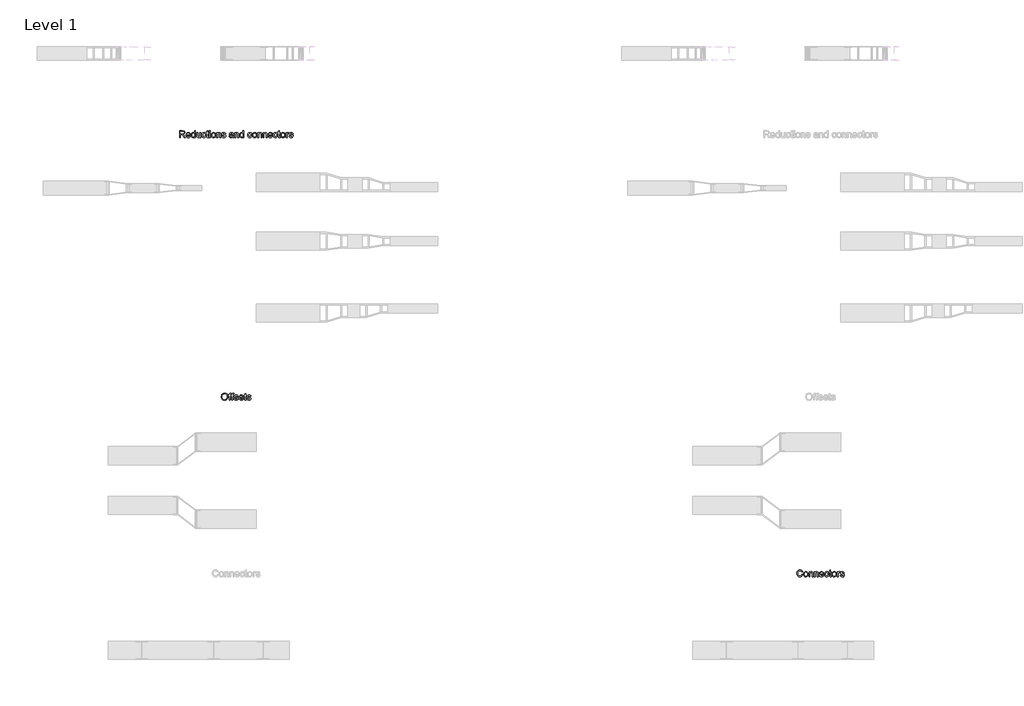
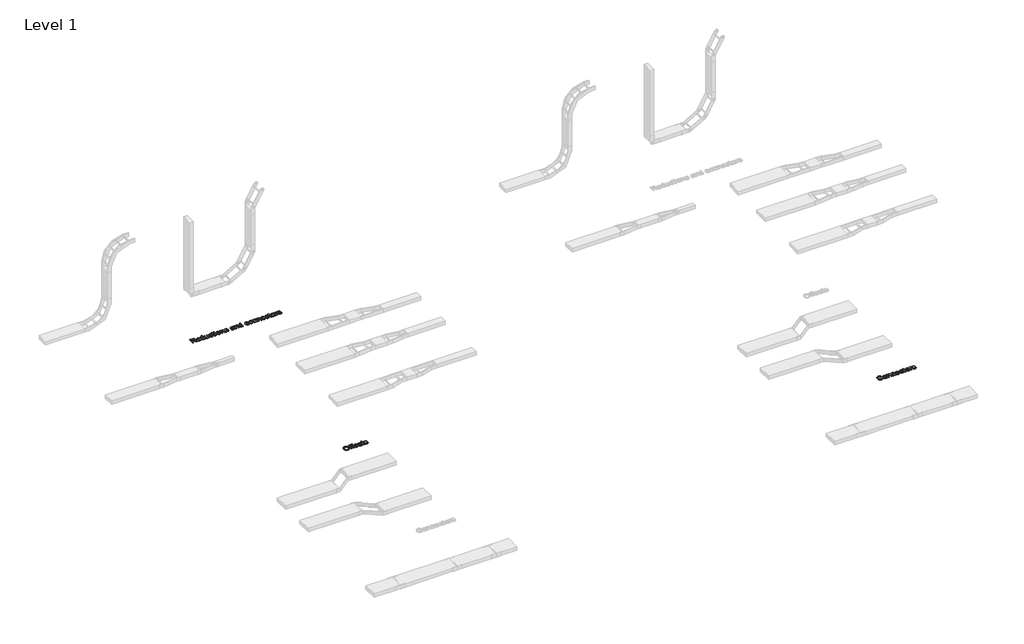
# One storey, part 70 of 106: 3 proxies.
"""IFC4 building model written with IfcOpenShell, lengths in millimetres."""

import ifcopenshell
import ifcopenshell.guid

model = None  # the IFC model being written
_history = None  # IfcOwnerHistory: only IFC2X3 demands one
_inside = {}  # id of a spatial element -> (the spatial element, [elements in it])
_under = {}  # id of a project, library or spatial element -> (it, [spatial elements below it])
_declared = {}  # id of a project -> (the project, [libraries it declares])
_typed = {}  # id of a type object -> (the type object, [elements of that type])
_made_of = {}  # id of a material, layer set ... -> (it, [elements and type objects made of it])


def new_model(schema):
    """Start an empty IFC model of exactly this schema.

    Asked for "IFC4X3", IfcOpenShell would pick the latest addendum, in which some entities
    have other attributes; the version numbers below select the first issue.
    IFC2X3 requires an IfcOwnerHistory on every rooted entity: one is made here for all.
    """
    global model, _history
    if schema == "IFC4X3":
        model = ifcopenshell.file(schema_version=(4, 3, 0, 0))
    else:
        model = ifcopenshell.file(schema=schema)
    _inside.clear()
    _under.clear()
    _declared.clear()
    _typed.clear()
    _made_of.clear()
    _history = None
    if model.schema == "IFC2X3":
        org = make("IfcOrganization", Name="unknown")
        user = make(
            "IfcPersonAndOrganization",
            ThePerson=make("IfcPerson", FamilyName="unknown"),
            TheOrganization=org,
        )
        app = make(
            "IfcApplication",
            ApplicationDeveloper=org,
            Version="unknown",
            ApplicationFullName="unknown",
            ApplicationIdentifier="unknown",
        )
        _history = make(
            "IfcOwnerHistory",
            OwningUser=user,
            OwningApplication=app,
            ChangeAction="ADDED",
            CreationDate=0,
        )
    return model


def make(cls, **values):
    """One entity of the class cls with the attributes given. An attribute that is None is left unset."""
    return model.create_entity(
        cls, **{name: value for name, value in values.items() if value is not None}
    )


def rooted(cls, **values):
    """An entity with a GlobalId (a new one), such as an element, a storey or a relation."""
    return make(cls, GlobalId=ifcopenshell.guid.new(), OwnerHistory=_history, **values)


def si_unit(unit_type, name, prefix=None):
    """IfcSIUnit, for example si_unit("LENGTHUNIT", "METRE", prefix="MILLI")."""
    return make("IfcSIUnit", UnitType=unit_type, Prefix=prefix, Name=name)


def assignment(units):
    """IfcUnitAssignment: the units of a project."""
    return None if units is None else make("IfcUnitAssignment", Units=units)


def point(xyz):
    """IfcCartesianPoint."""
    return None if xyz is None else make("IfcCartesianPoint", Coordinates=xyz)


def direction(xyz):
    """IfcDirection."""
    return None if xyz is None else make("IfcDirection", DirectionRatios=xyz)


def frame(location, z_axis=None, x_axis=None):
    """IfcAxis2Placement3D, a coordinate frame: its origin and axes. An axis left out is left unset."""
    return make(
        "IfcAxis2Placement3D",
        Location=point(location),
        Axis=direction(z_axis),
        RefDirection=direction(x_axis),
    )


def origin():
    """The frame at (0, 0, 0) with its axes left unset."""
    return frame((0.0, 0.0, 0.0))


def origin_with_axes():
    """The frame at (0, 0, 0) with the z axis (0, 0, 1) and the x axis (1, 0, 0) written out."""
    return frame((0.0, 0.0, 0.0), z_axis=(0.0, 0.0, 1.0), x_axis=(1.0, 0.0, 0.0))


def place(relative_to, where):
    """IfcLocalPlacement: puts the frame where relative to a parent placement (None: the world)."""
    return make(
        "IfcLocalPlacement", PlacementRelTo=relative_to, RelativePlacement=where
    )


def context(
    kind, dimensions, precision=None, world=None, true_north=None, identifier=None
):
    """IfcGeometricRepresentationContext, for example the 3D "Model" context."""
    return make(
        "IfcGeometricRepresentationContext",
        ContextIdentifier=identifier,
        ContextType=kind,
        CoordinateSpaceDimension=dimensions,
        Precision=precision,
        WorldCoordinateSystem=world,
        TrueNorth=true_north,
    )


def project(units=None, contexts=None):
    """IfcProject with its units and contexts."""
    return rooted(
        "IfcProject",
        Name="project",
        RepresentationContexts=contexts,
        UnitsInContext=assignment(units),
    )


def spatial(cls, under=None, at=None, **own):
    """A site, building, storey or space (cls), placed at a placement, below another one or the project."""
    s = rooted(cls, ObjectPlacement=at, **own)
    if under is not None:
        _under.setdefault(under.id(), (under, []))[1].append(s)
    return s


def polyline(points):
    """IfcPolyline through the points."""
    return make("IfcPolyline", Points=[point(p) for p in points])


def outline(outer, holes=None, kind="AREA"):
    """IfcArbitraryClosedProfileDef: a profile drawn as a closed curve; with holes, ...WithVoids."""
    if holes is None:
        return make("IfcArbitraryClosedProfileDef", ProfileType=kind, OuterCurve=outer)
    return make(
        "IfcArbitraryProfileDefWithVoids",
        ProfileType=kind,
        OuterCurve=outer,
        InnerCurves=holes,
    )


def extrude(swept, where, along, depth):
    """IfcExtrudedAreaSolid: the profile swept, set in the frame where, extruded along a direction by depth."""
    return make(
        "IfcExtrudedAreaSolid",
        SweptArea=swept,
        Position=where,
        ExtrudedDirection=direction(along),
        Depth=depth,
    )


def shape(context_of_items, identifier, shape_type, items):
    """IfcShapeRepresentation: the items that make up one representation, for example the "Body"."""
    return make(
        "IfcShapeRepresentation",
        ContextOfItems=context_of_items,
        RepresentationIdentifier=identifier,
        RepresentationType=shape_type,
        Items=items,
    )


def made_of(thing, what):
    """Note that an element or type object is made of a material, layer set ...; save() writes the relation."""
    if what is not None:
        _made_of.setdefault(what.id(), (what, []))[1].append(thing)
    return thing


def element(
    cls,
    number,
    at=None,
    inside=None,
    cuts=None,
    type_object=None,
    material=None,
    context=None,
    identifier="Body",
    shape_type=None,
    held_by="IfcProductDefinitionShape",
    body=None,
    shapes=None,
    **own,
):
    """One element of the class cls, such as IfcWall. Its Tag is "e" and its number.

    at: its placement. inside: the storey or other place that contains it. cuts: it is an
    opening in that element (IfcRelVoidsElement). A single representation is given by context,
    identifier, shape_type and body (its items); several are given by shapes. held_by: the class
    of the entity that holds the representations. save() writes the other relations.
    """
    e = rooted(cls, Tag="e%d" % number, ObjectPlacement=at, **own)
    if body is not None:
        shapes = [shape(context, identifier, shape_type, body)]
    if shapes is not None:
        e.Representation = make(held_by, Representations=shapes)
    if inside is not None:
        _inside.setdefault(inside.id(), (inside, []))[1].append(e)
    if cuts is not None:
        rooted(
            "IfcRelVoidsElement", RelatingBuildingElement=cuts, RelatedOpeningElement=e
        )
    if type_object is not None:
        _typed.setdefault(type_object.id(), (type_object, []))[1].append(e)
    return made_of(e, material)


def aggregate(whole, parts):
    """IfcRelAggregates: a whole, such as a stair, and the parts it consists of."""
    return rooted("IfcRelAggregates", RelatingObject=whole, RelatedObjects=parts)


def save(model, path):
    """Write the relations noted so far, then the file.

    IfcRelAggregates (storeys below a building ...), IfcRelContainedInSpatialStructure (elements
    in a storey), IfcRelDefinesByType, IfcRelAssociatesMaterial and IfcRelDeclares: one each for
    every whole, place, type object, material and project.
    """
    for whole, parts in _under.values():
        aggregate(whole, parts)
    for where, things in _inside.values():
        rooted(
            "IfcRelContainedInSpatialStructure",
            RelatedElements=things,
            RelatingStructure=where,
        )
    for kind, things in _typed.values():
        rooted("IfcRelDefinesByType", RelatedObjects=things, RelatingType=kind)
    for what, things in _made_of.values():
        rooted("IfcRelAssociatesMaterial", RelatedObjects=things, RelatingMaterial=what)
    for by, libraries in _declared.values():
        rooted("IfcRelDeclares", RelatingContext=by, RelatedDefinitions=libraries)
    model.write(path)


model = new_model("IFC4")

# Units and contexts
model_context = context("Model", 3, world=origin())
ifc_project = project(units=[si_unit("LENGTHUNIT", "METRE", prefix="MILLI")], contexts=[model_context])

# Site, building, storey
site = spatial("IfcSite", under=ifc_project)
building = spatial("IfcBuilding", under=site)
storey = spatial("IfcBuildingStorey", under=building, Name="Level 1", Elevation=0.0)

# Proxies
placement = place(None, origin())
element("IfcBuildingElementProxy", 1, Name="150mm Arial 2", ObjectType="150mm Arial 2", at=placement, inside=storey, context=model_context, shape_type="SweptSolid", body=[
    extrude(outline(polyline([(79068.5420892, 54347.8476348), (79068.5420892, 54498.5321), (79133.4732613, 54498.5321), (79163.6211908, 54494.467004), (79172.9010141, 54488.8384094), (79180.1023042, 54480.0828179), (79184.7238218, 54469.2257006), (79186.2643276, 54457.2925283), (79183.7121463, 54442.4484898), (79176.0556023, 54430.1428371), (79163.0647693, 54421.1205312), (79144.5097212, 54416.1265331), (79155.2150872, 54408.0699174), (79170.48219, 54388.6825362), (79195.6085303, 54347.8476348), (79173.7195516, 54347.8476348), (79154.1114412, 54379.0808162), (79139.9479844, 54399.7557843), (79129.9967765, 54409.5230513), (79121.0388499, 54413.1099007), (79110.1127546, 54413.7720883), (79087.3776473, 54413.7720883), (79087.3776473, 54347.8476348), (79068.5420892, 54347.8476348)]), holes=[polyline([(79087.3776473, 54432.6076465), (79129.536924, 54432.6076465), (79151.0396266, 54435.2747909), (79163.2533088, 54443.8096532), (79167.4287695, 54456.5935526), (79165.4376082, 54465.7814054), (79159.4641243, 54473.1850305), (79149.186421, 54478.068664), (79134.2826017, 54479.6965419), (79087.3776473, 54479.6965419), (79087.3776473, 54432.6076465)])]), origin_with_axes(), (0.0, 0.0, 1.0), 15.0),
    extrude(outline(polyline([(79294.3480578, 54380.8098615), (79312.815734, 54378.4554168), (79306.1616684, 54364.5402803), (79295.5436743, 54354.1384169), (79281.200875, 54347.6544967), (79263.3723938, 54345.49319), (79241.2718829, 54349.2225937), (79224.2665377, 54360.4108049), (79213.4232159, 54378.3312566), (79209.8087753, 54402.2573819), (79213.4600041, 54426.988249), (79224.4136905, 54445.4835163), (79241.1891095, 54457.0166168), (79262.305536, 54460.8609837), (79282.7643735, 54457.0258139), (79299.1121296, 54445.5203045), (79309.8312913, 54427.0618254), (79313.4043452, 54402.3677465), (79313.2939806, 54397.2909749), (79228.6443335, 54397.2909749), (79231.9046876, 54383.1918975), (79239.4784582, 54372.8268223), (79250.409152, 54366.4532667), (79263.7402758, 54364.3287482), (79282.207952, 54368.2650855), (79294.3480578, 54380.8098615)]), holes=[polyline([(79228.6443335, 54416.1265331), (79294.568787, 54416.1265331), (79292.0212042, 54426.0777411), (79287.0272061, 54433.1962577), (79276.0459285, 54439.8181336), (79262.2319596, 54442.0254255), (79249.5354323, 54440.2641905), (79239.0369998, 54434.9804853), (79231.7391407, 54426.7445272), (79228.6443335, 54416.1265331)])]), origin_with_axes(), (0.0, 0.0, 1.0), 15.0),
    extrude(outline(polyline([(79400.5188016, 54347.8476348), (79400.5188016, 54365.6163351), (79388.056799, 54350.5239763), (79370.8307246, 54345.49319), (79358.6538306, 54347.3142059), (79347.5070061, 54352.7772535), (79338.0708329, 54361.5006553), (79331.0258927, 54373.1027337), (79326.6388999, 54387.1144392), (79325.176569, 54403.0667223), (79330.5660402, 54433.0491049), (79337.2982807, 54444.9408904), (79346.7160598, 54453.6872848), (79358.1066061, 54459.067559), (79370.7571482, 54460.8609837), (79388.1211784, 54455.7290299), (79400.5188016, 54442.3933075), (79400.5188016, 54498.5321), (79419.3543598, 54498.5321), (79419.3543598, 54347.8476348), (79400.5188016, 54347.8476348)]), holes=[polyline([(79344.0121271, 54403.1402987), (79346.1366457, 54386.1027638), (79352.5102012, 54373.9856505), (79361.7716305, 54366.7429738), (79372.55977, 54364.3287482), (79383.343311, 54366.6326092), (79392.3702154, 54373.5441921), (79398.4816551, 54385.1922558), (79400.5188016, 54401.7055589), (79398.4448669, 54419.7593678), (79392.2230626, 54432.2765527), (79382.9662319, 54439.5882073), (79371.7872178, 54442.0254255), (79360.8887137, 54439.6847764), (79351.9583782, 54432.6628288), (79345.9986899, 54420.6008979), (79344.0121271, 54403.1402987)])]), origin_with_axes(), (0.0, 0.0, 1.0), 15.0),
    extrude(outline(polyline([(79518.2410401, 54347.8476348), (79518.2410401, 54366.8671339), (79503.4889721, 54350.836676), (79484.2487437, 54345.49319), (79466.5352256, 54349.2455864), (79454.3215434, 54358.6633654), (79448.711343, 54372.5325167), (79447.607697, 54390.0436996), (79447.607697, 54458.5065389), (79466.4432551, 54458.5065389), (79466.4432551, 54398.9096557), (79467.5836893, 54379.7062156), (79475.0332997, 54368.4306324), (79489.0679978, 54364.3287482), (79504.7949531, 54368.5226029), (79515.1876195, 54379.9453389), (79518.2410401, 54400.9330067), (79518.2410401, 54458.5065389), (79537.0765982, 54458.5065389), (79537.0765982, 54347.8476348), (79518.2410401, 54347.8476348)])), origin_with_axes(), (0.0, 0.0, 1.0), 15.0),
    extrude(outline(polyline([(79633.6088338, 54387.8731959), (79652.4443919, 54385.5187511), (79647.1928764, 54368.7663247), (79637.3244419, 54356.1065856), (79623.7679904, 54348.1465389), (79607.4524239, 54345.49319), (79587.4166507, 54349.1950026), (79571.7494763, 54360.3004403), (79561.6373199, 54378.3220596), (79558.2666011, 54402.7724167), (79559.7059394, 54419.5340401), (79564.0239544, 54434.0607803), (79571.2896238, 54445.7916175), (79581.5719255, 54454.1655314), (79593.8729797, 54459.1871206), (79607.1949065, 54460.8609837), (79623.1104013, 54458.5617212), (79635.8345198, 54451.6639338), (79644.9625918, 54440.5355035), (79650.0899471, 54425.5443122), (79631.254389, 54423.1898674), (79622.5171916, 54437.2981419), (79607.3420593, 54442.0254255), (79595.1697638, 54439.6985719), (79585.5082629, 54432.7180111), (79579.2036852, 54420.7066639), (79577.1021593, 54403.2874515), (79579.1576999, 54385.6337142), (79585.3243219, 54373.5809803), (79594.8110788, 54366.6418062), (79606.8270245, 54364.3287482), (79616.5804959, 54365.772685), (79624.5773308, 54370.1044955), (79630.3944648, 54377.4345442), (79633.6088338, 54387.8731959)])), origin_with_axes(), (0.0, 0.0, 1.0), 15.0),
    extrude(outline(polyline([(79708.9510664, 54363.556196), (79711.3055111, 54347.2958118), (79697.2156307, 54345.49319), (79681.4334931, 54348.620187), (79673.5608184, 54356.8239555), (79671.2799501, 54378.1978994), (79671.2799501, 54439.6709808), (79657.1532814, 54439.6709808), (79657.1532814, 54458.5065389), (79671.2799501, 54458.5065389), (79671.2799501, 54485.3987128), (79690.1155082, 54496.4719608), (79690.1155082, 54458.5065389), (79708.9510664, 54458.5065389), (79708.9510664, 54439.6709808), (79690.1155082, 54439.6709808), (79690.1155082, 54378.7497224), (79691.1087896, 54369.0376377), (79694.3277571, 54365.597941), (79700.7472979, 54364.3287482), (79708.9510664, 54363.556196)])), origin_with_axes(), (0.0, 0.0, 1.0), 15.0),
    extrude(outline(polyline([(79727.7866245, 54479.6965419), (79727.7866245, 54498.5321), (79746.6221827, 54498.5321), (79746.6221827, 54479.6965419), (79727.7866245, 54479.6965419)])), origin_with_axes(), (0.0, 0.0, 1.0), 15.0),
    extrude(outline(polyline([(79727.7866245, 54347.8476348), (79727.7866245, 54458.5065389), (79746.6221827, 54458.5065389), (79746.6221827, 54347.8476348), (79727.7866245, 54347.8476348)])), origin_with_axes(), (0.0, 0.0, 1.0), 15.0),
    extrude(outline(polyline([(79770.1666304, 54403.1770869), (79774.2409235, 54429.8577286), (79786.4638027, 54448.6105133), (79801.5653587, 54457.7983661), (79819.6467587, 54460.8609837), (79839.4342115, 54457.13158), (79855.2393417, 54445.9433688), (79865.5998184, 54428.179267), (79869.0533107, 54404.7221912), (79867.5266004, 54385.693495), (79862.9464695, 54371.2081415), (79855.4462754, 54360.3602211), (79845.1593751, 54352.2438246), (79832.9410943, 54347.1808487), (79819.6467587, 54345.49319), (79799.6201826, 54349.2087982), (79783.8334465, 54360.3556226), (79773.5833344, 54378.492205), (79770.1666304, 54403.1770869)]), holes=[polyline([(79789.0021885, 54403.2138751), (79791.1818893, 54386.1671431), (79797.7209918, 54374.0224387), (79807.5618352, 54366.7521708), (79819.6467587, 54364.3287482), (79831.6765, 54366.7659664), (79841.4989492, 54374.077621), (79848.0380517, 54386.3832738), (79850.2177525, 54403.8024862), (79848.0242561, 54420.3525775), (79841.4437669, 54432.331735), (79831.6075221, 54439.6020029), (79819.6467587, 54442.0254255), (79807.5618352, 54439.6112), (79797.7209918, 54432.3685232), (79791.1818893, 54420.25141), (79789.0021885, 54403.2138751)])]), origin_with_axes(), (0.0, 0.0, 1.0), 15.0),
    extrude(outline(polyline([(79890.2433136, 54347.8476348), (79890.2433136, 54458.5065389), (79909.0788717, 54458.5065389), (79909.0788717, 54443.0554951), (79923.4814519, 54456.4096116), (79943.1447445, 54460.8609837), (79960.931839, 54457.2741342), (79973.0719448, 54447.8563552), (79978.7189334, 54434.0055981), (79979.7122148, 54415.7954393), (79979.7122148, 54347.8476348), (79960.8766567, 54347.8476348), (79960.8766567, 54413.2570535), (79958.7061529, 54429.9221079), (79951.0358133, 54438.7328817), (79938.1047612, 54442.0254255), (79927.0728998, 54440.1768185), (79917.6689163, 54434.6309974), (79911.2263829, 54423.9164343), (79909.0788717, 54406.5616012), (79909.0788717, 54347.8476348), (79890.2433136, 54347.8476348)])), origin_with_axes(), (0.0, 0.0, 1.0), 15.0),
    extrude(outline(polyline([(79998.547773, 54380.8098615), (80017.3833311, 54383.1643063), (80020.3539782, 54375.1076906), (80026.1021344, 54369.1847905), (80046.0781267, 54364.3287482), (80065.2815669, 54368.7801203), (80071.5355608, 54379.227969), (80069.9628653, 54384.028829), (80065.2447787, 54387.6892549), (80045.8573975, 54393.060332), (80017.4936957, 54402.275776), (80005.1144666, 54413.0363243), (80000.9022177, 54428.2298507), (80004.2867321, 54442.2645488), (80013.5205702, 54452.988309), (80025.4951291, 54458.5617212), (80041.700331, 54460.8609837), (80064.6193793, 54457.1637696), (80079.1875063, 54447.1573794), (80085.6622294, 54430.2532017), (80066.8266713, 54427.8987569), (80059.7449429, 54438.2914233), (80043.171859, 54442.0254255), (80025.1456412, 54438.4569702), (80019.7377759, 54430.1428371), (80021.9818561, 54424.6613954), (80029.0084022, 54420.5043288), (80045.2319982, 54416.4944151), (80072.8783301, 54407.628459), (80085.7174117, 54397.5852805), (80090.371119, 54381.2145317), (80084.9080713, 54363.188314), (80069.1443278, 54350.1101091), (80045.8206093, 54345.49319), (80026.8287013, 54347.7188761), (80012.9687472, 54354.3959343), (80003.716515, 54365.4507882), (79998.547773, 54380.8098615)])), origin_with_axes(), (0.0, 0.0, 1.0), 15.0),
    extrude(outline(polyline([(80241.0555842, 54361.9743034), (80222.7902431, 54349.2087982), (80202.6119157, 54345.49319), (80186.8711648, 54347.7280731), (80175.2598894, 54354.4327225), (80168.099986, 54364.6138567), (80165.7133516, 54377.2781944), (80169.3185951, 54392.1774152), (80178.7915565, 54402.9931459), (80191.980126, 54409.1735634), (80208.2772984, 54412.0062547), (80240.9452196, 54418.4809779), (80241.0555842, 54422.6748326), (80239.7588002, 54431.0809362), (80235.8684481, 54436.580772), (80227.1680389, 54440.6642622), (80215.0463271, 54442.0254255), (80195.9900398, 54438.4017879), (80186.9033545, 54425.5443122), (80168.0677963, 54427.8987569), (80176.2163825, 54446.2928567), (80192.6239195, 54457.0717991), (80217.4743483, 54460.8609837), (80240.3014261, 54457.5132575), (80253.19569, 54449.107154), (80258.9714374, 54436.3232546), (80259.8911423, 54419.8421412), (80259.8911423, 54396.4080581), (80260.8476355, 54363.6849547), (80264.6000319, 54347.8476348), (80245.7644737, 54347.8476348), (80241.0555842, 54361.9743034)]), holes=[polyline([(80241.0555842, 54399.6454197), (80210.6685314, 54393.8696724), (80194.4633295, 54390.8162518), (80187.1240837, 54385.8498449), (80184.5489097, 54378.6025696), (80190.1591102, 54368.4122383), (80206.6218294, 54364.3287482), (80225.6781168, 54368.8353026), (80237.9653754, 54379.7430038), (80240.9452196, 54394.3111308), (80241.0555842, 54399.6454197)])]), origin_with_axes(), (0.0, 0.0, 1.0), 15.0),
    extrude(outline(polyline([(80285.7900348, 54347.8476348), (80285.7900348, 54458.5065389), (80304.625593, 54458.5065389), (80304.625593, 54443.0554951), (80319.0281731, 54456.4096116), (80338.6914657, 54460.8609837), (80356.4785602, 54457.2741342), (80368.618666, 54447.8563552), (80374.2656546, 54434.0055981), (80375.258936, 54415.7954393), (80375.258936, 54347.8476348), (80356.4233779, 54347.8476348), (80356.4233779, 54413.2570535), (80354.2528741, 54429.9221079), (80346.5825345, 54438.7328817), (80333.6514824, 54442.0254255), (80322.619621, 54440.1768185), (80313.2156375, 54434.6309974), (80306.7731041, 54423.9164343), (80304.625593, 54406.5616012), (80304.625593, 54347.8476348), (80285.7900348, 54347.8476348)])), origin_with_axes(), (0.0, 0.0, 1.0), 15.0),
    extrude(outline(polyline([(80469.4367268, 54347.8476348), (80469.4367268, 54365.6163351), (80456.9747242, 54350.5239763), (80439.7486498, 54345.49319), (80427.5717557, 54347.3142059), (80416.4249313, 54352.7772535), (80406.9887581, 54361.5006553), (80399.9438179, 54373.1027337), (80395.5568251, 54387.1144392), (80394.0944942, 54403.0667223), (80399.4839654, 54433.0491049), (80406.2162059, 54444.9408904), (80415.633985, 54453.6872848), (80427.0245313, 54459.067559), (80439.6750734, 54460.8609837), (80457.0391036, 54455.7290299), (80469.4367268, 54442.3933075), (80469.4367268, 54498.5321), (80488.2722849, 54498.5321), (80488.2722849, 54347.8476348), (80469.4367268, 54347.8476348)]), holes=[polyline([(80412.9300523, 54403.1402987), (80415.0545709, 54386.1027638), (80421.4281264, 54373.9856505), (80430.6895557, 54366.7429738), (80441.4776952, 54364.3287482), (80452.2612361, 54366.6326092), (80461.2881406, 54373.5441921), (80467.3995802, 54385.1922558), (80469.4367268, 54401.7055589), (80467.362792, 54419.7593678), (80461.1409878, 54432.2765527), (80451.8841571, 54439.5882073), (80440.705143, 54442.0254255), (80429.8066389, 54439.6847764), (80420.8763034, 54432.6628288), (80414.9166151, 54420.6008979), (80412.9300523, 54403.1402987)])]), origin_with_axes(), (0.0, 0.0, 1.0), 15.0),
    extrude(outline(polyline([(80646.0200845, 54387.8731959), (80664.8556426, 54385.5187511), (80659.6041272, 54368.7663247), (80649.7356926, 54356.1065856), (80636.1792411, 54348.1465389), (80619.8636746, 54345.49319), (80599.8279015, 54349.1950026), (80584.160727, 54360.3004403), (80574.0485706, 54378.3220596), (80570.6778519, 54402.7724167), (80572.1171902, 54419.5340401), (80576.4352051, 54434.0607803), (80583.7008745, 54445.7916175), (80593.9831763, 54454.1655314), (80606.2842305, 54459.1871206), (80619.6061572, 54460.8609837), (80635.521652, 54458.5617212), (80648.2457706, 54451.6639338), (80657.3738426, 54440.5355035), (80662.5011979, 54425.5443122), (80643.6656397, 54423.1898674), (80634.9284423, 54437.2981419), (80619.75331, 54442.0254255), (80607.5810145, 54439.6985719), (80597.9195136, 54432.7180111), (80591.6149359, 54420.7066639), (80589.51341, 54403.2874515), (80591.5689507, 54385.6337142), (80597.7355726, 54373.5809803), (80607.2223296, 54366.6418062), (80619.2382752, 54364.3287482), (80628.9917466, 54365.772685), (80636.9885815, 54370.1044955), (80642.8057155, 54377.4345442), (80646.0200845, 54387.8731959)])), origin_with_axes(), (0.0, 0.0, 1.0), 15.0),
    extrude(outline(polyline([(80676.6278665, 54403.1770869), (80680.7021596, 54429.8577286), (80692.9250389, 54448.6105133), (80708.0265948, 54457.7983661), (80726.1079948, 54460.8609837), (80745.8954476, 54457.13158), (80761.7005779, 54445.9433688), (80772.0610546, 54428.179267), (80775.5145468, 54404.7221912), (80773.9878365, 54385.693495), (80769.4077057, 54371.2081415), (80761.9075115, 54360.3602211), (80751.6206112, 54352.2438246), (80739.4023304, 54347.1808487), (80726.1079948, 54345.49319), (80706.0814187, 54349.2087982), (80690.2946826, 54360.3556226), (80680.0445705, 54378.492205), (80676.6278665, 54403.1770869)]), holes=[polyline([(80695.4634246, 54403.2138751), (80697.6431255, 54386.1671431), (80704.1822279, 54374.0224387), (80714.0230713, 54366.7521708), (80726.1079948, 54364.3287482), (80738.1377361, 54366.7659664), (80747.9601853, 54374.077621), (80754.4992878, 54386.3832738), (80756.6789886, 54403.8024862), (80754.4854922, 54420.3525775), (80747.905003, 54432.331735), (80738.0687582, 54439.6020029), (80726.1079948, 54442.0254255), (80714.0230713, 54439.6112), (80704.1822279, 54432.3685232), (80697.6431255, 54420.25141), (80695.4634246, 54403.2138751)])]), origin_with_axes(), (0.0, 0.0, 1.0), 15.0),
    extrude(outline(polyline([(80796.7045497, 54347.8476348), (80796.7045497, 54458.5065389), (80815.5401079, 54458.5065389), (80815.5401079, 54443.0554951), (80829.942688, 54456.4096116), (80849.6059806, 54460.8609837), (80867.3930751, 54457.2741342), (80879.5331809, 54447.8563552), (80885.1801695, 54434.0055981), (80886.1734509, 54415.7954393), (80886.1734509, 54347.8476348), (80867.3378928, 54347.8476348), (80867.3378928, 54413.2570535), (80865.167389, 54429.9221079), (80857.4970494, 54438.7328817), (80844.5659973, 54442.0254255), (80833.5341359, 54440.1768185), (80824.1301524, 54434.6309974), (80817.687619, 54423.9164343), (80815.5401079, 54406.5616012), (80815.5401079, 54347.8476348), (80796.7045497, 54347.8476348)])), origin_with_axes(), (0.0, 0.0, 1.0), 15.0),
    extrude(outline(polyline([(80912.0723434, 54347.8476348), (80912.0723434, 54458.5065389), (80930.9079015, 54458.5065389), (80930.9079015, 54443.0554951), (80945.3104817, 54456.4096116), (80964.9737743, 54460.8609837), (80982.7608688, 54457.2741342), (80994.9009746, 54447.8563552), (81000.5479632, 54434.0055981), (81001.5412446, 54415.7954393), (81001.5412446, 54347.8476348), (80982.7056865, 54347.8476348), (80982.7056865, 54413.2570535), (80980.5351827, 54429.9221079), (80972.8648431, 54438.7328817), (80959.933791, 54442.0254255), (80948.9019296, 54440.1768185), (80939.4979461, 54434.6309974), (80933.0554127, 54423.9164343), (80930.9079015, 54406.5616012), (80930.9079015, 54347.8476348), (80912.0723434, 54347.8476348)])), origin_with_axes(), (0.0, 0.0, 1.0), 15.0),
    extrude(outline(polyline([(81104.9160853, 54380.8098615), (81123.3837614, 54378.4554168), (81116.7296958, 54364.5402803), (81106.1117017, 54354.1384169), (81091.7689025, 54347.6544967), (81073.9404213, 54345.49319), (81051.8399104, 54349.2225937), (81034.8345652, 54360.4108049), (81023.9912434, 54378.3312566), (81020.3768028, 54402.2573819), (81024.0280316, 54426.988249), (81034.981718, 54445.4835163), (81051.757137, 54457.0166168), (81072.8735635, 54460.8609837), (81093.3324009, 54457.0258139), (81109.6801571, 54445.5203045), (81120.3993187, 54427.0618254), (81123.9723726, 54402.3677465), (81123.862008, 54397.2909749), (81039.2123609, 54397.2909749), (81042.4727151, 54383.1918975), (81050.0464857, 54372.8268223), (81060.9771795, 54366.4532667), (81074.3083033, 54364.3287482), (81092.7759794, 54368.2650855), (81104.9160853, 54380.8098615)]), holes=[polyline([(81039.2123609, 54416.1265331), (81105.1368145, 54416.1265331), (81102.5892316, 54426.0777411), (81097.5952336, 54433.1962577), (81086.613956, 54439.8181336), (81072.7999871, 54442.0254255), (81060.1034597, 54440.2641905), (81049.6050273, 54434.9804853), (81042.3071682, 54426.7445272), (81039.2123609, 54416.1265331)])]), origin_with_axes(), (0.0, 0.0, 1.0), 15.0),
    extrude(outline(polyline([(81213.4412738, 54387.8731959), (81232.276832, 54385.5187511), (81227.0253165, 54368.7663247), (81217.156882, 54356.1065856), (81203.6004305, 54348.1465389), (81187.284864, 54345.49319), (81167.2490908, 54349.1950026), (81151.5819164, 54360.3004403), (81141.46976, 54378.3220596), (81138.0990412, 54402.7724167), (81139.5383795, 54419.5340401), (81143.8563945, 54434.0607803), (81151.1220639, 54445.7916175), (81161.4043656, 54454.1655314), (81173.7054198, 54459.1871206), (81187.0273466, 54460.8609837), (81202.9428414, 54458.5617212), (81215.6669599, 54451.6639338), (81224.7950319, 54440.5355035), (81229.9223872, 54425.5443122), (81211.0868291, 54423.1898674), (81202.3496317, 54437.2981419), (81187.1744994, 54442.0254255), (81175.0022039, 54439.6985719), (81165.340703, 54432.7180111), (81159.0361253, 54420.7066639), (81156.9345994, 54403.2874515), (81158.99014, 54385.6337142), (81165.156762, 54373.5809803), (81174.6435189, 54366.6418062), (81186.6594646, 54364.3287482), (81196.412936, 54365.772685), (81204.4097709, 54370.1044955), (81210.2269049, 54377.4345442), (81213.4412738, 54387.8731959)])), origin_with_axes(), (0.0, 0.0, 1.0), 15.0),
    extrude(outline(polyline([(81288.7835065, 54363.556196), (81291.1379512, 54347.2958118), (81277.0480708, 54345.49319), (81261.2659332, 54348.620187), (81253.3932585, 54356.8239555), (81251.1123901, 54378.1978994), (81251.1123901, 54439.6709808), (81236.9857215, 54439.6709808), (81236.9857215, 54458.5065389), (81251.1123901, 54458.5065389), (81251.1123901, 54485.3987128), (81269.9479483, 54496.4719608), (81269.9479483, 54458.5065389), (81288.7835065, 54458.5065389), (81288.7835065, 54439.6709808), (81269.9479483, 54439.6709808), (81269.9479483, 54378.7497224), (81270.9412297, 54369.0376377), (81274.1601971, 54365.597941), (81280.579738, 54364.3287482), (81288.7835065, 54363.556196)])), origin_with_axes(), (0.0, 0.0, 1.0), 15.0),
    extrude(outline(polyline([(81302.9101751, 54403.1770869), (81306.9844682, 54429.8577286), (81319.2073475, 54448.6105133), (81334.3089034, 54457.7983661), (81352.3903034, 54460.8609837), (81372.1777562, 54457.13158), (81387.9828865, 54445.9433688), (81398.3433631, 54428.179267), (81401.7968554, 54404.7221912), (81400.2701451, 54385.693495), (81395.6900143, 54371.2081415), (81388.1898201, 54360.3602211), (81377.9029198, 54352.2438246), (81365.684639, 54347.1808487), (81352.3903034, 54345.49319), (81332.3637273, 54349.2087982), (81316.5769912, 54360.3556226), (81306.3268791, 54378.492205), (81302.9101751, 54403.1770869)]), holes=[polyline([(81321.7457332, 54403.2138751), (81323.925434, 54386.1671431), (81330.4645365, 54374.0224387), (81340.3053799, 54366.7521708), (81352.3903034, 54364.3287482), (81364.4200447, 54366.7659664), (81374.2424939, 54374.077621), (81380.7815964, 54386.3832738), (81382.9612972, 54403.8024862), (81380.7678008, 54420.3525775), (81374.1873116, 54432.331735), (81364.3510668, 54439.6020029), (81352.3903034, 54442.0254255), (81340.3053799, 54439.6112), (81330.4645365, 54432.3685232), (81323.925434, 54420.25141), (81321.7457332, 54403.2138751)])]), origin_with_axes(), (0.0, 0.0, 1.0), 15.0),
    extrude(outline(polyline([(81422.9868583, 54347.8476348), (81422.9868583, 54458.5065389), (81439.4679717, 54458.5065389), (81439.4679717, 54442.1357901), (81451.1666191, 54457.2189519), (81462.938843, 54460.8609837), (81481.8479775, 54455.0484482), (81475.5571954, 54438.1626646), (81462.3134436, 54442.0254255), (81451.6632598, 54438.3098174), (81444.875837, 54428.0091215), (81441.8224164, 54406.0097782), (81441.8224164, 54347.8476348), (81422.9868583, 54347.8476348)])), origin_with_axes(), (0.0, 0.0, 1.0), 15.0),
    extrude(outline(polyline([(81486.5568671, 54380.8098615), (81505.3924252, 54383.1643063), (81508.3630723, 54375.1076906), (81514.1112285, 54369.1847905), (81534.0872208, 54364.3287482), (81553.290661, 54368.7801203), (81559.5446549, 54379.227969), (81557.9719594, 54384.028829), (81553.2538728, 54387.6892549), (81533.8664916, 54393.060332), (81505.5027898, 54402.275776), (81493.1235607, 54413.0363243), (81488.9113118, 54428.2298507), (81492.2958262, 54442.2645488), (81501.5296643, 54452.988309), (81513.5042232, 54458.5617212), (81529.7094251, 54460.8609837), (81552.6284734, 54457.1637696), (81567.1966004, 54447.1573794), (81573.6713235, 54430.2532017), (81554.8357654, 54427.8987569), (81547.754037, 54438.2914233), (81531.1809531, 54442.0254255), (81513.1547353, 54438.4569702), (81507.74687, 54430.1428371), (81509.9909502, 54424.6613954), (81517.0174963, 54420.5043288), (81533.2410922, 54416.4944151), (81560.8874242, 54407.628459), (81573.7265058, 54397.5852805), (81578.3802131, 54381.2145317), (81572.9171654, 54363.188314), (81557.1534219, 54350.1101091), (81533.8297034, 54345.49319), (81514.8377954, 54347.7188761), (81500.9778413, 54354.3959343), (81491.7256091, 54365.4507882), (81486.5568671, 54380.8098615)])), origin_with_axes(), (0.0, 0.0, 1.0), 15.0),
])
element("IfcBuildingElementProxy", 2, Name="150mm Arial 2", ObjectType="150mm Arial 2", at=placement, inside=storey, context=model_context, shape_type="SweptSolid", body=[
    extrude(outline(polyline([(79992.661661, 48621.2033046), (79997.6832503, 48654.5242163), (80003.9602368, 48668.1427479), (80012.748018, 48679.7333301), (80035.7498397, 48695.5982411), (80064.5825911, 48700.8865448), (80084.3470513, 48698.4033413), (80102.0697664, 48690.9537309), (80116.7850462, 48679.0619454), (80127.5272005, 48663.2522167), (80134.0938941, 48644.2878998), (80136.282792, 48622.93235), (80133.978931, 48601.2916916), (80127.067348, 48582.0606603), (80115.9297206, 48566.2233404), (80100.9477263, 48554.7638163), (80083.3767625, 48547.8108466), (80064.4722265, 48545.49319), (80044.4042637, 48548.0545684), (80026.580381, 48555.7387036), (80011.9018894, 48567.8512183), (80001.2700997, 48583.6977352), (79994.8137707, 48601.9308866), (79992.661661, 48621.2033046)]), holes=[polyline([(80011.4972192, 48621.0193636), (80015.2634111, 48597.4473248), (80026.5619869, 48579.4854864), (80043.5443395, 48568.1179327), (80064.3618619, 48564.3287482), (80085.482887, 48568.1547209), (80102.4928307, 48579.6326392), (80113.708633, 48598.1463006), (80117.4472338, 48623.0795028), (80115.8469471, 48639.7537542), (80111.0460871, 48654.1655314), (80103.1688139, 48665.9515508), (80092.3392876, 48674.748529), (80079.2748783, 48680.2253722), (80064.6929557, 48682.0509866), (80044.4318548, 48678.533115), (80027.2057804, 48667.9795003), (80015.4243595, 48649.203723), (80011.4972192, 48621.0193636)])]), origin_with_axes(), (0.0, 0.0, 1.0), 15.0),
    extrude(outline(polyline([(80225.7516932, 48547.8476348), (80225.7516932, 48639.6709808), (80209.2705798, 48639.6709808), (80209.2705798, 48658.5065389), (80225.7516932, 48658.5065389), (80225.7516932, 48669.6533634), (80227.738256, 48685.3619246), (80237.3767642, 48696.5823254), (80256.3594752, 48700.8865448), (80273.5395644, 48698.8264056), (80270.7804494, 48681.1680698), (80259.9279305, 48682.0509866), (80248.0637362, 48678.9239897), (80244.5872513, 48667.2621304), (80244.5872513, 48658.5065389), (80265.7772543, 48658.5065389), (80265.7772543, 48639.6709808), (80244.5872513, 48639.6709808), (80244.5872513, 48547.8476348), (80225.7516932, 48547.8476348)])), origin_with_axes(), (0.0, 0.0, 1.0), 15.0),
    extrude(outline(polyline([(80164.5361292, 48547.8476348), (80164.5361292, 48639.6709808), (80148.0550158, 48639.6709808), (80148.0550158, 48658.5065389), (80164.5361292, 48658.5065389), (80164.5361292, 48669.6533634), (80166.522692, 48685.3619246), (80176.1612002, 48696.5823254), (80195.1439112, 48700.8865448), (80212.3240004, 48698.8264056), (80209.5648854, 48681.1680698), (80198.7123665, 48682.0509866), (80186.8481722, 48678.9239897), (80183.3716873, 48667.2621304), (80183.3716873, 48658.5065389), (80204.5616903, 48658.5065389), (80204.5616903, 48639.6709808), (80183.3716873, 48639.6709808), (80183.3716873, 48547.8476348), (80164.5361292, 48547.8476348)])), origin_with_axes(), (0.0, 0.0, 1.0), 15.0),
    extrude(outline(polyline([(80275.1950333, 48580.8098615), (80294.0305915, 48583.1643063), (80297.0012386, 48575.1076906), (80302.7493948, 48569.1847905), (80322.7253871, 48564.3287482), (80341.9288273, 48568.7801203), (80348.1828212, 48579.227969), (80346.6101257, 48584.028829), (80341.8920391, 48587.6892549), (80322.5046579, 48593.060332), (80294.1409561, 48602.275776), (80281.761727, 48613.0363243), (80277.5494781, 48628.2298507), (80280.9339925, 48642.2645488), (80290.1678305, 48652.988309), (80302.1423895, 48658.5617212), (80318.3475914, 48660.8609837), (80341.2666397, 48657.1637696), (80355.8347667, 48647.1573794), (80362.3094898, 48630.2532017), (80343.4739316, 48627.8987569), (80336.3922032, 48638.2914233), (80319.8191194, 48642.0254255), (80301.7929016, 48638.4569702), (80296.3850363, 48630.1428371), (80298.6291164, 48624.6613954), (80305.6556625, 48620.5043288), (80321.8792585, 48616.4944151), (80349.5255905, 48607.628459), (80362.3646721, 48597.5852805), (80367.0183793, 48581.2145317), (80361.5553317, 48563.188314), (80345.7915882, 48550.1101091), (80322.4678697, 48545.49319), (80303.4759617, 48547.7188761), (80289.6160076, 48554.3959343), (80280.3637754, 48565.4507882), (80275.1950333, 48580.8098615)])), origin_with_axes(), (0.0, 0.0, 1.0), 15.0),
    extrude(outline(polyline([(80465.6843304, 48580.8098615), (80484.1520066, 48578.4554168), (80477.497941, 48564.5402803), (80466.8799469, 48554.1384169), (80452.5371476, 48547.6544967), (80434.7086664, 48545.49319), (80412.6081556, 48549.2225937), (80395.6028104, 48560.4108049), (80384.7594886, 48578.3312566), (80381.145048, 48602.2573819), (80384.7962768, 48626.988249), (80395.7499632, 48645.4835163), (80412.5253821, 48657.0166168), (80433.6418087, 48660.8609837), (80454.1006461, 48657.0258139), (80470.4484023, 48645.5203045), (80481.1675639, 48627.0618254), (80484.7406178, 48602.3677465), (80484.6302532, 48597.2909749), (80399.9806061, 48597.2909749), (80403.2409603, 48583.1918975), (80410.8147309, 48572.8268223), (80421.7454246, 48566.4532667), (80435.0765484, 48564.3287482), (80453.5442246, 48568.2650855), (80465.6843304, 48580.8098615)]), holes=[polyline([(80399.9806061, 48616.1265331), (80465.9050596, 48616.1265331), (80463.3574768, 48626.0777411), (80458.3634787, 48633.1962577), (80447.3822012, 48639.8181336), (80433.5682323, 48642.0254255), (80420.8717049, 48640.2641905), (80410.3732725, 48634.9804853), (80403.0754134, 48626.7445272), (80399.9806061, 48616.1265331)])]), origin_with_axes(), (0.0, 0.0, 1.0), 15.0),
    extrude(outline(polyline([(80543.601737, 48563.556196), (80545.9561818, 48547.2958118), (80531.8663014, 48545.49319), (80516.0841638, 48548.620187), (80508.2114891, 48556.8239555), (80505.9306207, 48578.1978994), (80505.9306207, 48639.6709808), (80491.8039521, 48639.6709808), (80491.8039521, 48658.5065389), (80505.9306207, 48658.5065389), (80505.9306207, 48685.3987128), (80524.7661789, 48696.4719608), (80524.7661789, 48658.5065389), (80543.601737, 48658.5065389), (80543.601737, 48639.6709808), (80524.7661789, 48639.6709808), (80524.7661789, 48578.7497224), (80525.7594603, 48569.0376377), (80528.9784277, 48565.597941), (80535.3979685, 48564.3287482), (80543.601737, 48563.556196)])), origin_with_axes(), (0.0, 0.0, 1.0), 15.0),
    extrude(outline(polyline([(80555.3739609, 48580.8098615), (80574.209519, 48583.1643063), (80577.1801661, 48575.1076906), (80582.9283223, 48569.1847905), (80602.9043146, 48564.3287482), (80622.1077548, 48568.7801203), (80628.3617487, 48579.227969), (80626.7890532, 48584.028829), (80622.0709666, 48587.6892549), (80602.6835854, 48593.060332), (80574.3198836, 48602.275776), (80561.9406545, 48613.0363243), (80557.7284056, 48628.2298507), (80561.11292, 48642.2645488), (80570.3467581, 48652.988309), (80582.321317, 48658.5617212), (80598.5265189, 48660.8609837), (80621.4455672, 48657.1637696), (80636.0136942, 48647.1573794), (80642.4884173, 48630.2532017), (80623.6528592, 48627.8987569), (80616.5711308, 48638.2914233), (80599.9980469, 48642.0254255), (80581.9718291, 48638.4569702), (80576.5639638, 48630.1428371), (80578.808044, 48624.6613954), (80585.8345901, 48620.5043288), (80602.0581861, 48616.4944151), (80629.704518, 48607.628459), (80642.5435996, 48597.5852805), (80647.1973069, 48581.2145317), (80641.7342592, 48563.188314), (80625.9705157, 48550.1101091), (80602.6467972, 48545.49319), (80583.6548892, 48547.7188761), (80569.7949351, 48554.3959343), (80560.5427029, 48565.4507882), (80555.3739609, 48580.8098615)])), origin_with_axes(), (0.0, 0.0, 1.0), 15.0),
])
element("IfcBuildingElementProxy", 3, Name="150mm Arial 2", ObjectType="150mm Arial 2", at=placement, inside=storey, context=model_context, shape_type="SweptSolid", body=[
    extrude(outline(polyline([(92806.724427, 44701.4112533), (92825.5599851, 44696.5552109), (92816.868773, 44674.6064514), (92803.229548, 44658.5713949), (92785.3136949, 44648.7627412), (92763.7925981, 44645.49319), (92741.9450061, 44647.9671964), (92724.5947715, 44655.3892157), (92711.2958374, 44667.5017304), (92701.6021469, 44684.0472231), (92695.6838453, 44703.4989836), (92693.7110781, 44724.3303016), (92695.9413626, 44746.3020537), (92702.6322164, 44765.2755676), (92713.4341515, 44780.6484365), (92727.99768, 44791.8182536), (92745.2697397, 44798.619472), (92764.1972683, 44800.8865448), (92784.8492438, 44797.9526859), (92801.9235669, 44789.1511091), (92814.8868087, 44775.0244405), (92823.2055404, 44756.115306), (92804.3699822, 44751.6271456), (92797.8400768, 44765.3629396), (92788.9189384, 44774.7853172), (92777.4962025, 44780.2345693), (92763.4615043, 44782.0509866), (92747.2838936, 44780.0368327), (92733.9941565, 44773.9943709), (92723.9095913, 44764.5581977), (92717.3474962, 44752.3629096), (92712.5466362, 44724.3670898), (92713.9675804, 44706.9662714), (92718.230413, 44691.9198978), (92725.4960824, 44679.8027846), (92735.925537, 44671.1897474), (92748.4289263, 44666.043998), (92761.9164, 44664.3287482), (92777.6387567, 44666.6647988), (92790.7399543, 44673.6729508), (92800.6313814, 44685.2796278), (92806.724427, 44701.4112533)])), origin_with_axes(), (0.0, 0.0, 1.0), 15.0),
    extrude(outline(polyline([(92844.3955433, 44703.1770869), (92848.4698364, 44729.8577286), (92860.6927157, 44748.6105133), (92875.7942716, 44757.7983661), (92893.8756716, 44760.8609837), (92913.6631244, 44757.13158), (92929.4682547, 44745.9433688), (92939.8287314, 44728.179267), (92943.2822236, 44704.7221912), (92941.7555133, 44685.693495), (92937.1753825, 44671.2081415), (92929.6751883, 44660.3602211), (92919.388288, 44652.2438246), (92907.1700072, 44647.1808487), (92893.8756716, 44645.49319), (92873.8490955, 44649.2087982), (92858.0623594, 44660.3556226), (92847.8122473, 44678.492205), (92844.3955433, 44703.1770869)]), holes=[polyline([(92863.2311014, 44703.2138751), (92865.4108023, 44686.1671431), (92871.9499047, 44674.0224387), (92881.7907481, 44666.7521708), (92893.8756716, 44664.3287482), (92905.9054129, 44666.7659664), (92915.7278621, 44674.077621), (92922.2669646, 44686.3832738), (92924.4466654, 44703.8024862), (92922.253169, 44720.3525775), (92915.6726798, 44732.331735), (92905.836435, 44739.6020029), (92893.8756716, 44742.0254255), (92881.7907481, 44739.6112), (92871.9499047, 44732.3685232), (92865.4108023, 44720.25141), (92863.2311014, 44703.2138751)])]), origin_with_axes(), (0.0, 0.0, 1.0), 15.0),
    extrude(outline(polyline([(92964.4722265, 44647.8476348), (92964.4722265, 44758.5065389), (92983.3077847, 44758.5065389), (92983.3077847, 44743.0554951), (92997.7103648, 44756.4096116), (93017.3736574, 44760.8609837), (93035.1607519, 44757.2741342), (93047.3008577, 44747.8563552), (93052.9478463, 44734.0055981), (93053.9411277, 44715.7954393), (93053.9411277, 44647.8476348), (93035.1055696, 44647.8476348), (93035.1055696, 44713.2570535), (93032.9350658, 44729.9221079), (93025.2647262, 44738.7328817), (93012.3336741, 44742.0254255), (93001.3018127, 44740.1768185), (92991.8978292, 44734.6309974), (92985.4552958, 44723.9164343), (92983.3077847, 44706.5616012), (92983.3077847, 44647.8476348), (92964.4722265, 44647.8476348)])), origin_with_axes(), (0.0, 0.0, 1.0), 15.0),
    extrude(outline(polyline([(93079.8400202, 44647.8476348), (93079.8400202, 44758.5065389), (93098.6755783, 44758.5065389), (93098.6755783, 44743.0554951), (93113.0781585, 44756.4096116), (93132.7414511, 44760.8609837), (93150.5285456, 44757.2741342), (93162.6686514, 44747.8563552), (93168.31564, 44734.0055981), (93169.3089214, 44715.7954393), (93169.3089214, 44647.8476348), (93150.4733633, 44647.8476348), (93150.4733633, 44713.2570535), (93148.3028595, 44729.9221079), (93140.6325199, 44738.7328817), (93127.7014678, 44742.0254255), (93116.6696064, 44740.1768185), (93107.2656229, 44734.6309974), (93100.8230895, 44723.9164343), (93098.6755783, 44706.5616012), (93098.6755783, 44647.8476348), (93079.8400202, 44647.8476348)])), origin_with_axes(), (0.0, 0.0, 1.0), 15.0),
    extrude(outline(polyline([(93272.6837621, 44680.8098615), (93291.1514382, 44678.4554168), (93284.4973726, 44664.5402803), (93273.8793785, 44654.1384169), (93259.5365793, 44647.6544967), (93241.7080981, 44645.49319), (93219.6075872, 44649.2225937), (93202.602242, 44660.4108049), (93191.7589202, 44678.3312566), (93188.1444796, 44702.2573819), (93191.7957084, 44726.988249), (93202.7493948, 44745.4835163), (93219.5248138, 44757.0166168), (93240.6412403, 44760.8609837), (93261.1000777, 44757.0258139), (93277.4478339, 44745.5203045), (93288.1669955, 44727.0618254), (93291.7400494, 44702.3677465), (93291.6296848, 44697.2909749), (93206.9800377, 44697.2909749), (93210.2403919, 44683.1918975), (93217.8141625, 44672.8268223), (93228.7448563, 44666.4532667), (93242.0759801, 44664.3287482), (93260.5436562, 44668.2650855), (93272.6837621, 44680.8098615)]), holes=[polyline([(93206.9800377, 44716.1265331), (93272.9044913, 44716.1265331), (93270.3569084, 44726.0777411), (93265.3629104, 44733.1962577), (93254.3816328, 44739.8181336), (93240.5676639, 44742.0254255), (93227.8711365, 44740.2641905), (93217.3727041, 44734.9804853), (93210.074845, 44726.7445272), (93206.9800377, 44716.1265331)])]), origin_with_axes(), (0.0, 0.0, 1.0), 15.0),
    extrude(outline(polyline([(93381.2089506, 44687.8731959), (93400.0445088, 44685.5187511), (93394.7929933, 44668.7663247), (93384.9245588, 44656.1065856), (93371.3681073, 44648.1465389), (93355.0525408, 44645.49319), (93335.0167676, 44649.1950026), (93319.3495932, 44660.3004403), (93309.2374368, 44678.3220596), (93305.866718, 44702.7724167), (93307.3060563, 44719.5340401), (93311.6240713, 44734.0607803), (93318.8897407, 44745.7916175), (93329.1720424, 44754.1655314), (93341.4730966, 44759.1871206), (93354.7950234, 44760.8609837), (93370.7105182, 44758.5617212), (93383.4346367, 44751.6639338), (93392.5627087, 44740.5355035), (93397.690064, 44725.5443122), (93378.8545059, 44723.1898674), (93370.1173085, 44737.2981419), (93354.9421762, 44742.0254255), (93342.7698807, 44739.6985719), (93333.1083798, 44732.7180111), (93326.8038021, 44720.7066639), (93324.7022762, 44703.2874515), (93326.7578168, 44685.6337142), (93332.9244388, 44673.5809803), (93342.4111957, 44666.6418062), (93354.4271414, 44664.3287482), (93364.1806128, 44665.772685), (93372.1774477, 44670.1044955), (93377.9945817, 44677.4345442), (93381.2089506, 44687.8731959)])), origin_with_axes(), (0.0, 0.0, 1.0), 15.0),
    extrude(outline(polyline([(93456.5511833, 44663.556196), (93458.905628, 44647.2958118), (93444.8157476, 44645.49319), (93429.03361, 44648.620187), (93421.1609353, 44656.8239555), (93418.8800669, 44678.1978994), (93418.8800669, 44739.6709808), (93404.7533983, 44739.6709808), (93404.7533983, 44758.5065389), (93418.8800669, 44758.5065389), (93418.8800669, 44785.3987128), (93437.7156251, 44796.4719608), (93437.7156251, 44758.5065389), (93456.5511833, 44758.5065389), (93456.5511833, 44739.6709808), (93437.7156251, 44739.6709808), (93437.7156251, 44678.7497224), (93438.7089065, 44669.0376377), (93441.9278739, 44665.597941), (93448.3474148, 44664.3287482), (93456.5511833, 44663.556196)])), origin_with_axes(), (0.0, 0.0, 1.0), 15.0),
    extrude(outline(polyline([(93470.6778519, 44703.1770869), (93474.752145, 44729.8577286), (93486.9750243, 44748.6105133), (93502.0765802, 44757.7983661), (93520.1579802, 44760.8609837), (93539.945433, 44757.13158), (93555.7505633, 44745.9433688), (93566.1110399, 44728.179267), (93569.5645322, 44704.7221912), (93568.0378219, 44685.693495), (93563.4576911, 44671.2081415), (93555.9574969, 44660.3602211), (93545.6705966, 44652.2438246), (93533.4523158, 44647.1808487), (93520.1579802, 44645.49319), (93500.1314041, 44649.2087982), (93484.344668, 44660.3556226), (93474.0945559, 44678.492205), (93470.6778519, 44703.1770869)]), holes=[polyline([(93489.51341, 44703.2138751), (93491.6931108, 44686.1671431), (93498.2322133, 44674.0224387), (93508.0730567, 44666.7521708), (93520.1579802, 44664.3287482), (93532.1877215, 44666.7659664), (93542.0101707, 44674.077621), (93548.5492732, 44686.3832738), (93550.728974, 44703.8024862), (93548.5354776, 44720.3525775), (93541.9549884, 44732.331735), (93532.1187436, 44739.6020029), (93520.1579802, 44742.0254255), (93508.0730567, 44739.6112), (93498.2322133, 44732.3685232), (93491.6931108, 44720.25141), (93489.51341, 44703.2138751)])]), origin_with_axes(), (0.0, 0.0, 1.0), 15.0),
    extrude(outline(polyline([(93590.7545351, 44647.8476348), (93590.7545351, 44758.5065389), (93607.2356485, 44758.5065389), (93607.2356485, 44742.1357901), (93618.9342959, 44757.2189519), (93630.7065198, 44760.8609837), (93649.6156543, 44755.0484482), (93643.3248722, 44738.1626646), (93630.0811204, 44742.0254255), (93619.4309366, 44738.3098174), (93612.6435138, 44728.0091215), (93609.5900932, 44706.0097782), (93609.5900932, 44647.8476348), (93590.7545351, 44647.8476348)])), origin_with_axes(), (0.0, 0.0, 1.0), 15.0),
    extrude(outline(polyline([(93654.3245439, 44680.8098615), (93673.160102, 44683.1643063), (93676.1307491, 44675.1076906), (93681.8789053, 44669.1847905), (93701.8548976, 44664.3287482), (93721.0583378, 44668.7801203), (93727.3123317, 44679.227969), (93725.7396362, 44684.028829), (93721.0215496, 44687.6892549), (93701.6341684, 44693.060332), (93673.2704666, 44702.275776), (93660.8912375, 44713.0363243), (93656.6789886, 44728.2298507), (93660.063503, 44742.2645488), (93669.2973411, 44752.988309), (93681.2719, 44758.5617212), (93697.4771019, 44760.8609837), (93720.3961502, 44757.1637696), (93734.9642772, 44747.1573794), (93741.4390003, 44730.2532017), (93722.6034422, 44727.8987569), (93715.5217138, 44738.2914233), (93698.9486299, 44742.0254255), (93680.9224121, 44738.4569702), (93675.5145468, 44730.1428371), (93677.758627, 44724.6613954), (93684.7851731, 44720.5043288), (93701.008769, 44716.4944151), (93728.655101, 44707.628459), (93741.4941826, 44697.5852805), (93746.1478899, 44681.2145317), (93740.6848422, 44663.188314), (93724.9210987, 44650.1101091), (93701.5973802, 44645.49319), (93682.6054722, 44647.7188761), (93668.7455181, 44654.3959343), (93659.4932859, 44665.4507882), (93654.3245439, 44680.8098615)])), origin_with_axes(), (0.0, 0.0, 1.0), 15.0),
])

save(model, "model.ifc")
